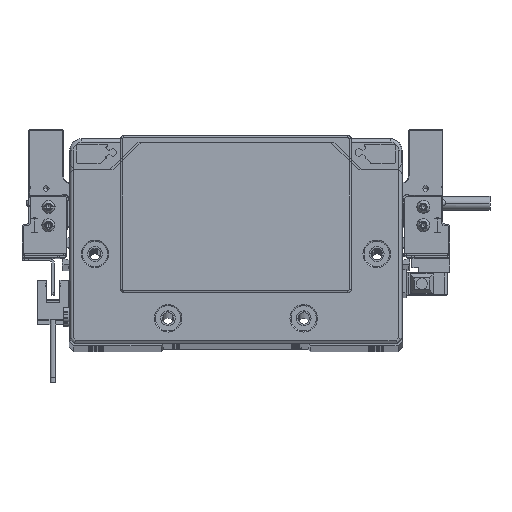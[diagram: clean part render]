
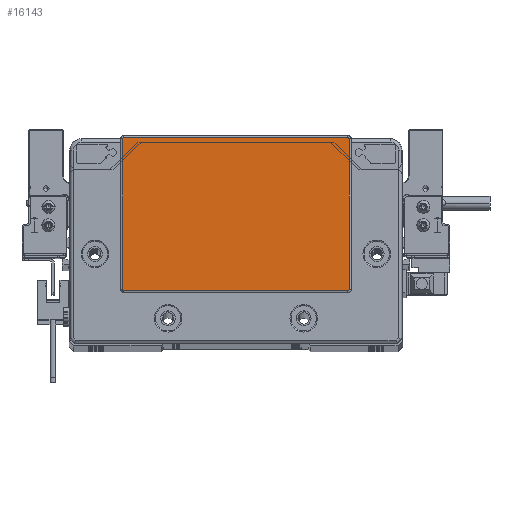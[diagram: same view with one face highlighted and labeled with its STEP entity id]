
A CAD part, top view. The second image highlights one B-rep face of the part: STEP entity #16143.
In plain terms, the highlighted planar face has unit normal (0, 0, 1) as drawn and (0, 0, -1) by its records, which use the part's own axes.
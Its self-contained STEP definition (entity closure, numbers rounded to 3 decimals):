
#1712 = AXIS2_PLACEMENT_3D ( 'NONE', #50866, #45257, #12729 ) ;
#4174 = ORIENTED_EDGE ( 'NONE', *, *, #87767, .T. ) ;
#4638 = EDGE_CURVE ( 'NONE', #46293, #16874, #16322, .T. ) ;
#4804 = VECTOR ( 'NONE', #32966, 1000. ) ;
#4894 = VERTEX_POINT ( 'NONE', #87363 ) ;
#5536 = ORIENTED_EDGE ( 'NONE', *, *, #4638, .T. ) ;
#5665 = DIRECTION ( 'NONE',  ( -1., 0., 0. ) ) ;
#5781 = DIRECTION ( 'NONE',  ( -1., 0., 0. ) ) ;
#6721 = EDGE_CURVE ( 'NONE', #22105, #16052, #82405, .T. ) ;
#6738 = CARTESIAN_POINT ( 'NONE',  ( -48.75, 43.8, -2. ) ) ;
#11765 = CARTESIAN_POINT ( 'NONE',  ( -49.25, 43.8, -2. ) ) ;
#12729 = DIRECTION ( 'NONE',  ( -1., 0., 0. ) ) ;
#14698 = CARTESIAN_POINT ( 'NONE',  ( 48.75, -22.3, -2. ) ) ;
#16052 = VERTEX_POINT ( 'NONE', #90849 ) ;
#16143 = ADVANCED_FACE ( 'NONE', ( #83205 ), #73643, .T. ) ;
#16322 = CIRCLE ( 'NONE', #1712, 0.5 ) ;
#16874 = VERTEX_POINT ( 'NONE', #14698 ) ;
#18142 = EDGE_CURVE ( 'NONE', #43130, #4894, #55473, .T. ) ;
#19628 = CARTESIAN_POINT ( 'NONE',  ( -49.25, 43.8, -2. ) ) ;
#21707 = AXIS2_PLACEMENT_3D ( 'NONE', #84039, #45804, #76895 ) ;
#22105 = VERTEX_POINT ( 'NONE', #19628 ) ;
#27899 = AXIS2_PLACEMENT_3D ( 'NONE', #88495, #96144, #69797 ) ;
#32966 = DIRECTION ( 'NONE',  ( 0., -1., 0. ) ) ;
#34169 = ORIENTED_EDGE ( 'NONE', *, *, #6721, .T. ) ;
#34335 = DIRECTION ( 'NONE',  ( 1., 0., 0. ) ) ;
#34920 = CARTESIAN_POINT ( 'NONE',  ( 0., 0., -2. ) ) ;
#35709 = EDGE_LOOP ( 'NONE', ( #57563, #5536, #60356, #42161, #86523, #34169, #55495, #4174 ) ) ;
#35944 = CARTESIAN_POINT ( 'NONE',  ( 49.25, 43.8, -2. ) ) ;
#37147 = CARTESIAN_POINT ( 'NONE',  ( 49.25, -21.8, -2. ) ) ;
#39131 = CARTESIAN_POINT ( 'NONE',  ( 48.75, 44.3, -2. ) ) ;
#40117 = EDGE_CURVE ( 'NONE', #16874, #43130, #50952, .T. ) ;
#42161 = ORIENTED_EDGE ( 'NONE', *, *, #18142, .T. ) ;
#43130 = VERTEX_POINT ( 'NONE', #74321 ) ;
#45257 = DIRECTION ( 'NONE',  ( 0., 0., -1. ) ) ;
#45804 = DIRECTION ( 'NONE',  ( 0., 0., -1. ) ) ;
#46293 = VERTEX_POINT ( 'NONE', #37147 ) ;
#49590 = LINE ( 'NONE', #81739, #77093 ) ;
#50866 = CARTESIAN_POINT ( 'NONE',  ( 48.75, -21.8, -2. ) ) ;
#50952 = LINE ( 'NONE', #59625, #99361 ) ;
#53796 = AXIS2_PLACEMENT_3D ( 'NONE', #34920, #75560, #5781 ) ;
#54717 = AXIS2_PLACEMENT_3D ( 'NONE', #6738, #90427, #58837 ) ;
#55473 = CIRCLE ( 'NONE', #27899, 0.5 ) ;
#55495 = ORIENTED_EDGE ( 'NONE', *, *, #98941, .T. ) ;
#57563 = ORIENTED_EDGE ( 'NONE', *, *, #59901, .T. ) ;
#57664 = VERTEX_POINT ( 'NONE', #39131 ) ;
#58837 = DIRECTION ( 'NONE',  ( -1., 0., 0. ) ) ;
#59625 = CARTESIAN_POINT ( 'NONE',  ( -48.75, -22.3, -2. ) ) ;
#59901 = EDGE_CURVE ( 'NONE', #63473, #46293, #79343, .T. ) ;
#60356 = ORIENTED_EDGE ( 'NONE', *, *, #40117, .T. ) ;
#62274 = CIRCLE ( 'NONE', #21707, 0.5 ) ;
#63473 = VERTEX_POINT ( 'NONE', #35944 ) ;
#65725 = DIRECTION ( 'NONE',  ( 0., 1., 0. ) ) ;
#69797 = DIRECTION ( 'NONE',  ( -1., 0., 0. ) ) ;
#73643 = PLANE ( 'NONE',  #53796 ) ;
#73885 = LINE ( 'NONE', #11765, #78243 ) ;
#74321 = CARTESIAN_POINT ( 'NONE',  ( -48.75, -22.3, -2. ) ) ;
#75560 = DIRECTION ( 'NONE',  ( 0., 0., -1. ) ) ;
#76895 = DIRECTION ( 'NONE',  ( -1., 0., 0. ) ) ;
#77093 = VECTOR ( 'NONE', #34335, 1000. ) ;
#78243 = VECTOR ( 'NONE', #65725, 1000. ) ;
#79343 = LINE ( 'NONE', #79857, #4804 ) ;
#79857 = CARTESIAN_POINT ( 'NONE',  ( 49.25, -21.8, -2. ) ) ;
#81739 = CARTESIAN_POINT ( 'NONE',  ( 48.75, 44.3, -2. ) ) ;
#82405 = CIRCLE ( 'NONE', #54717, 0.5 ) ;
#83205 = FACE_OUTER_BOUND ( 'NONE', #35709, .T. ) ;
#83973 = EDGE_CURVE ( 'NONE', #4894, #22105, #73885, .T. ) ;
#84039 = CARTESIAN_POINT ( 'NONE',  ( 48.75, 43.8, -2. ) ) ;
#86523 = ORIENTED_EDGE ( 'NONE', *, *, #83973, .T. ) ;
#87363 = CARTESIAN_POINT ( 'NONE',  ( -49.25, -21.8, -2. ) ) ;
#87767 = EDGE_CURVE ( 'NONE', #57664, #63473, #62274, .T. ) ;
#88495 = CARTESIAN_POINT ( 'NONE',  ( -48.75, -21.8, -2. ) ) ;
#90427 = DIRECTION ( 'NONE',  ( 0., 0., -1. ) ) ;
#90849 = CARTESIAN_POINT ( 'NONE',  ( -48.75, 44.3, -2. ) ) ;
#96144 = DIRECTION ( 'NONE',  ( 0., 0., -1. ) ) ;
#98941 = EDGE_CURVE ( 'NONE', #16052, #57664, #49590, .T. ) ;
#99361 = VECTOR ( 'NONE', #5665, 1000. ) ;
